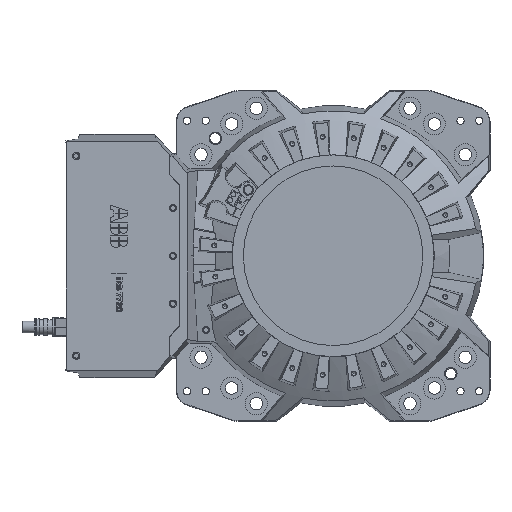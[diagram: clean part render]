
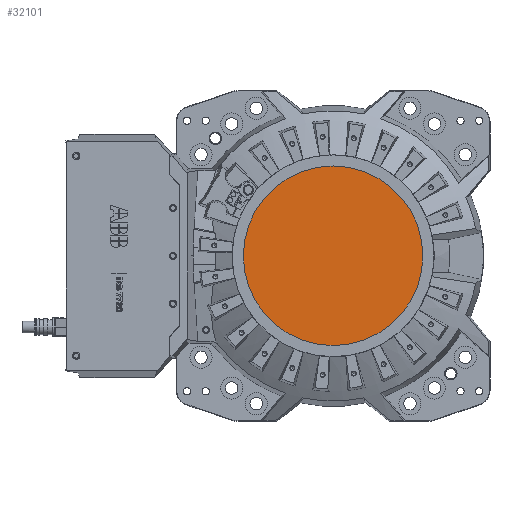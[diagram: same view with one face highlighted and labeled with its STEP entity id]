
A CAD part, top view. The second image highlights one B-rep face of the part: STEP entity #32101.
In plain terms, the highlighted planar face has unit normal (0, 0, 1).
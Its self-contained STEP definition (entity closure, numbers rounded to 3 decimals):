
#1015 = EDGE_LOOP ( 'NONE', ( #9181 ) ) ;
#5888 = EDGE_CURVE ( 'NONE', #16990, #16990, #46150, .T. ) ;
#9181 = ORIENTED_EDGE ( 'NONE', *, *, #5888, .T. ) ;
#11892 = AXIS2_PLACEMENT_3D ( 'NONE', #30234, #50206, #14162 ) ;
#12515 = CARTESIAN_POINT ( 'NONE',  ( 0., -215.75, 327. ) ) ;
#14162 = DIRECTION ( 'NONE',  ( 0., -1., 0. ) ) ;
#16990 = VERTEX_POINT ( 'NONE', #12515 ) ;
#20788 = PLANE ( 'NONE',  #11892 ) ;
#30212 = AXIS2_PLACEMENT_3D ( 'NONE', #44912, #44655, #49652 ) ;
#30234 = CARTESIAN_POINT ( 'NONE',  ( 215.173, 0., 327. ) ) ;
#32101 = ADVANCED_FACE ( 'NONE', ( #40756 ), #20788, .F. ) ;
#40756 = FACE_OUTER_BOUND ( 'NONE', #1015, .T. ) ;
#44655 = DIRECTION ( 'NONE',  ( 0., 0., 1. ) ) ;
#44912 = CARTESIAN_POINT ( 'NONE',  ( 0., 0., 327. ) ) ;
#46150 = CIRCLE ( 'NONE', #30212, 215.75 ) ;
#49652 = DIRECTION ( 'NONE',  ( 0., -1., 0. ) ) ;
#50206 = DIRECTION ( 'NONE',  ( 0., 0., -1. ) ) ;
